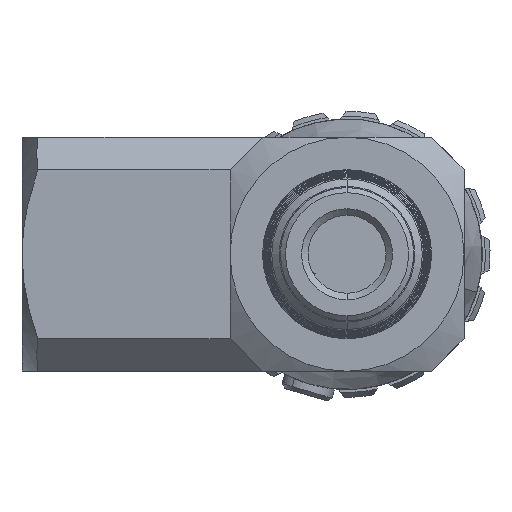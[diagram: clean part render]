
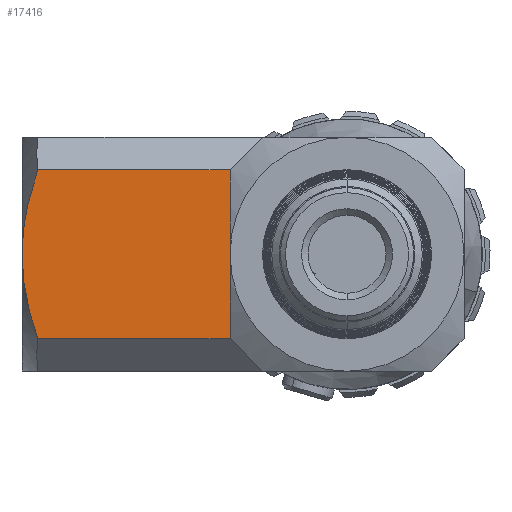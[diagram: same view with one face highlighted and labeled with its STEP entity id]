
A CAD part, front view. The second image highlights one B-rep face of the part: STEP entity #17416.
In plain terms, the highlighted planar face has unit normal (0, -1, 0).
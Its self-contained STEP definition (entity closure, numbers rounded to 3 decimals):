
#740 = VECTOR ( 'NONE', #888, 1000. ) ;
#888 = DIRECTION ( 'NONE',  ( 0., 0., -1. ) ) ;
#1722 = CARTESIAN_POINT ( 'NONE',  ( -25., -9., 0.555 ) ) ;
#1738 = AXIS2_PLACEMENT_3D ( 'NONE', #24486, #10231, #26847 ) ;
#2286 = CARTESIAN_POINT ( 'NONE',  ( -23.787, -9., 6.5 ) ) ;
#2793 = DIRECTION ( 'NONE',  ( 1., 0., 0. ) ) ;
#3999 = CARTESIAN_POINT ( 'NONE',  ( -24.142, -9., 5.448 ) ) ;
#4263 = EDGE_LOOP ( 'NONE', ( #23804, #30623, #10648, #6845, #26312 ) ) ;
#5510 = B_SPLINE_CURVE_WITH_KNOTS ( 'NONE', 3,
 ( #8771, #3999, #27790, #13545, #30195, #15958, #1722, #18358 ),
 .UNSPECIFIED., .F., .F.,
 ( 4, 2, 2, 4 ),
 ( 0.024, 0.027, 0.029, 0.031 ),
 .UNSPECIFIED. ) ;
#5802 = VERTEX_POINT ( 'NONE', #2286 ) ;
#6845 = ORIENTED_EDGE ( 'NONE', *, *, #16732, .T. ) ;
#7727 = PLANE ( 'NONE',  #1738 ) ;
#7949 = CARTESIAN_POINT ( 'NONE',  ( -9., -9., -9. ) ) ;
#8561 = B_SPLINE_CURVE_WITH_KNOTS ( 'NONE', 3,
 ( #27520, #29947, #8605, #25241, #11007, #27624 ),
 .UNSPECIFIED., .F., .F.,
 ( 4, 2, 4 ),
 ( 0.031, 0.034, 0.037 ),
 .UNSPECIFIED. ) ;
#8605 = CARTESIAN_POINT ( 'NONE',  ( -24.878, -9., -2.207 ) ) ;
#8771 = CARTESIAN_POINT ( 'NONE',  ( -23.787, -9., 6.5 ) ) ;
#8815 = CARTESIAN_POINT ( 'NONE',  ( -9., -9., 6.5 ) ) ;
#9226 = VERTEX_POINT ( 'NONE', #9426 ) ;
#9426 = CARTESIAN_POINT ( 'NONE',  ( -9., -9., -6.5 ) ) ;
#10231 = DIRECTION ( 'NONE',  ( 0., -1., 0. ) ) ;
#10648 = ORIENTED_EDGE ( 'NONE', *, *, #21256, .T. ) ;
#11007 = CARTESIAN_POINT ( 'NONE',  ( -24.141, -9., -5.451 ) ) ;
#13545 = CARTESIAN_POINT ( 'NONE',  ( -24.769, -9., 2.762 ) ) ;
#13711 = CARTESIAN_POINT ( 'NONE',  ( -25., -9., 0. ) ) ;
#15889 = VERTEX_POINT ( 'NONE', #25896 ) ;
#15958 = CARTESIAN_POINT ( 'NONE',  ( -24.97, -9., 1.115 ) ) ;
#16174 = VECTOR ( 'NONE', #17323, 1000. ) ;
#16732 = EDGE_CURVE ( 'NONE', #15889, #9226, #29675, .T. ) ;
#17156 = CARTESIAN_POINT ( 'NONE',  ( -9., -9., -6.5 ) ) ;
#17323 = DIRECTION ( 'NONE',  ( -1., 0., 0. ) ) ;
#17416 = ADVANCED_FACE ( 'NONE', ( #25487 ), #7727, .T. ) ;
#18358 = CARTESIAN_POINT ( 'NONE',  ( -25., -9., 0. ) ) ;
#19045 = EDGE_CURVE ( 'NONE', #29426, #5802, #22477, .T. ) ;
#19180 = VERTEX_POINT ( 'NONE', #13711 ) ;
#21256 = EDGE_CURVE ( 'NONE', #19180, #15889, #8561, .T. ) ;
#22477 = LINE ( 'NONE', #26833, #16174 ) ;
#23366 = VECTOR ( 'NONE', #2793, 1000. ) ;
#23539 = EDGE_CURVE ( 'NONE', #5802, #19180, #5510, .T. ) ;
#23804 = ORIENTED_EDGE ( 'NONE', *, *, #19045, .T. ) ;
#24486 = CARTESIAN_POINT ( 'NONE',  ( -25., -9., 9. ) ) ;
#25241 = CARTESIAN_POINT ( 'NONE',  ( -24.448, -9., -4.375 ) ) ;
#25289 = LINE ( 'NONE', #7949, #740 ) ;
#25487 = FACE_OUTER_BOUND ( 'NONE', #4263, .T. ) ;
#25776 = EDGE_CURVE ( 'NONE', #29426, #9226, #25289, .T. ) ;
#25896 = CARTESIAN_POINT ( 'NONE',  ( -23.787, -9., -6.5 ) ) ;
#26312 = ORIENTED_EDGE ( 'NONE', *, *, #25776, .F. ) ;
#26833 = CARTESIAN_POINT ( 'NONE',  ( -25., -9., 6.5 ) ) ;
#26847 = DIRECTION ( 'NONE',  ( 0., 0., -1. ) ) ;
#27520 = CARTESIAN_POINT ( 'NONE',  ( -25., -9., 0. ) ) ;
#27624 = CARTESIAN_POINT ( 'NONE',  ( -23.787, -9., -6.5 ) ) ;
#27790 = CARTESIAN_POINT ( 'NONE',  ( -24.446, -9., 4.384 ) ) ;
#29426 = VERTEX_POINT ( 'NONE', #8815 ) ;
#29675 = LINE ( 'NONE', #17156, #23366 ) ;
#29947 = CARTESIAN_POINT ( 'NONE',  ( -25., -9., -1.111 ) ) ;
#30195 = CARTESIAN_POINT ( 'NONE',  ( -24.854, -9., 2.217 ) ) ;
#30623 = ORIENTED_EDGE ( 'NONE', *, *, #23539, .T. ) ;
